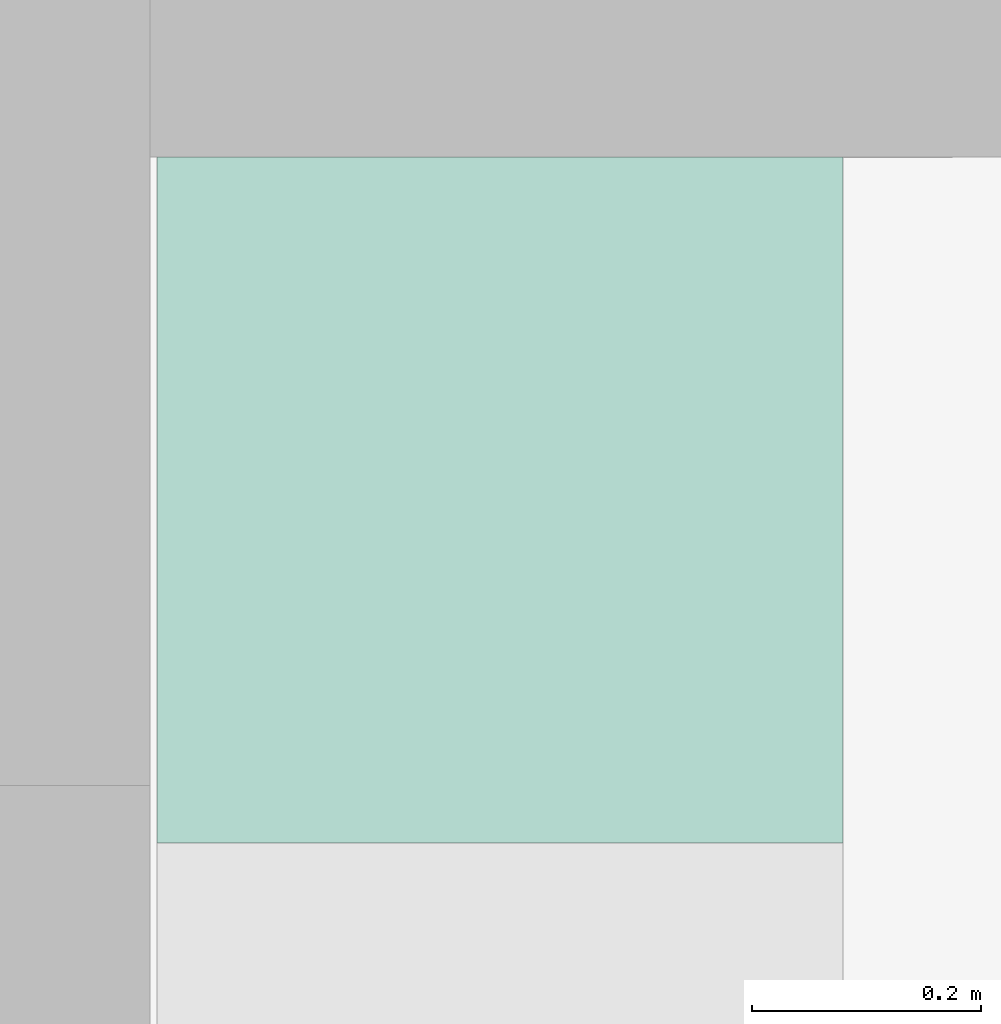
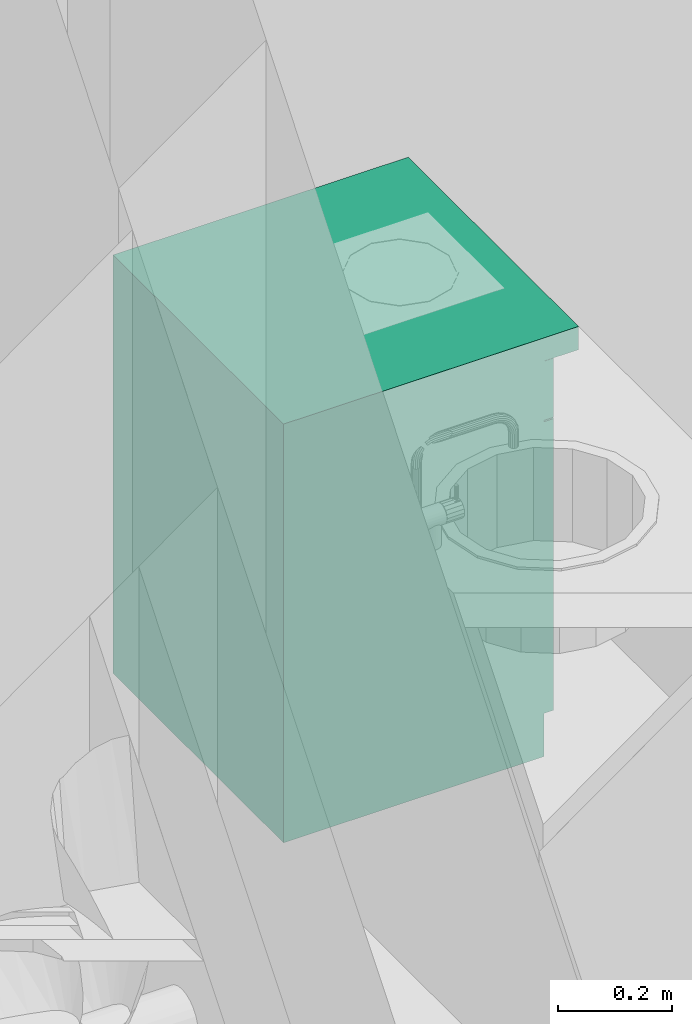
# One storey, part 46 of 172: 1 flow terminal.
"""IFC2X3 building model written with IfcOpenShell, lengths in millimetres."""

from ifc_helpers import new_model, entity, si_unit, converted_unit, money_unit, direction, frame, origin_with_axes, place, context, subcontext, project, spatial, faceted_brep, source, transform, mapped, material, material_list, type_object, element, save


model = new_model("IFC2X3")

# Units and contexts
model_context = context("Model", 3, precision=1e-05, world=origin_with_axes(), true_north=direction((0.0, 1.0)))
body_context = subcontext(model_context, "Body", "Model", "MODEL_VIEW")
ifc_project = project(units=[si_unit("LENGTHUNIT", "METRE", prefix="MILLI"), si_unit("AREAUNIT", "SQUARE_METRE"), si_unit("VOLUMEUNIT", "CUBIC_METRE"), converted_unit("PLANEANGLEUNIT", "DEGREE", entity("IfcPlaneAngleMeasure", 0.0174532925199), si_unit("PLANEANGLEUNIT", "RADIAN"), dimensions=[0, 0, 0, 0, 0, 0, 0]), si_unit("SOLIDANGLEUNIT", "STERADIAN"), money_unit("USD"), converted_unit("TIMEUNIT", "Year", entity("IfcTimeMeasure", 31556926.0), si_unit("TIMEUNIT", "SECOND"), dimensions=[0, 0, 0, 0, 0, 0, 0]), si_unit("MASSUNIT", "GRAM"), si_unit("THERMODYNAMICTEMPERATUREUNIT", "DEGREE_CELSIUS"), si_unit("LUMINOUSINTENSITYUNIT", "LUMEN")], contexts=[model_context])

# Site, building, storey
site_placement = place(None, origin_with_axes())
site = spatial("IfcSite", under=ifc_project, at=site_placement, Name="Site", CompositionType="ELEMENT")
building_placement = place(site_placement, origin_with_axes())
building = spatial("IfcBuilding", under=site, at=building_placement, Name="Building", CompositionType="ELEMENT")
storey_placement = place(building_placement, frame((0.0, 0.0, 3200.0), z_axis=(0.0, 0.0, 1.0), x_axis=(1.0, 0.0, 0.0)))
storey = spatial("IfcBuildingStorey", under=building, at=storey_placement, Name="3KORRUS", CompositionType="ELEMENT", Elevation=3200.0)

# Flow terminal
ifc_material = material(Name="Background")
ifc_material_list = material_list([ifc_material])
sanitary_terminal_type = type_object("IfcSanitaryTerminalType", Name="Cabinet Base Single Door 19", PredefinedType="SINK")
shared_shape = source(origin_with_axes(), body_context, "Body", "Brep", [
    faceted_brep([(20.0, 70.0, 710.0), (580.0, 70.0, 710.0), (580.0, 70.0, 730.0), (20.0, 70.0, 730.0), (20.0, 580.0, 710.0), (580.0, 580.0, 710.0), (580.0, 580.0, 730.0), (20.0, 580.0, 730.0)], [[[0, 1, 2, 3]], [[0, 4, 5, 1]], [[1, 5, 6, 2]], [[3, 2, 6, 7]], [[4, 0, 3, 7]], [[5, 4, 7, 6]]]),
    faceted_brep([(0.0, 70.0, 0.0), (600.0, 70.0, 0.0), (600.0, 70.0, 90.0), (0.0, 70.0, 90.0), (0.0, 600.0, 0.0), (600.0, 600.0, 0.0), (600.0, 600.0, 90.0), (0.0, 600.0, 90.0)], [[[0, 1, 2, 3]], [[0, 4, 5, 1]], [[1, 5, 6, 2]], [[3, 2, 6, 7]], [[4, 0, 3, 7]], [[5, 4, 7, 6]]]),
    faceted_brep([(0.0, 70.0, 830.0), (20.0, 70.0, 830.0), (20.0, 70.0, 850.0), (0.0, 70.0, 850.0), (0.0, 600.0, 830.0), (20.0, 600.0, 830.0), (580.0, 600.0, 830.0), (600.0, 600.0, 830.0), (600.0, 70.0, 830.0), (580.0, 70.0, 830.0), (580.0, 70.0, 850.0), (600.0, 70.0, 850.0), (600.0, 600.0, 850.0), (580.0, 600.0, 850.0), (20.0, 600.0, 850.0), (0.0, 600.0, 850.0)], [[[0, 1, 2, 3]], [[0, 4, 5, 6, 7, 8, 9, 1]], [[1, 9, 10, 2]], [[3, 2, 10, 11, 12, 13, 14, 15]], [[4, 0, 3, 15]], [[5, 4, 15, 14]], [[6, 5, 14, 13]], [[7, 6, 13, 12]], [[8, 7, 12, 11]], [[9, 8, 11, 10]]]),
    faceted_brep([(0.0, 70.0, 90.0), (20.0, 70.0, 90.0), (20.0, 70.0, 110.0), (0.0, 70.0, 110.0), (0.0, 600.0, 90.0), (20.0, 600.0, 90.0), (580.0, 600.0, 90.0), (600.0, 600.0, 90.0), (600.0, 70.0, 90.0), (580.0, 70.0, 90.0), (580.0, 70.0, 110.0), (600.0, 70.0, 110.0), (600.0, 600.0, 110.0), (580.0, 600.0, 110.0), (20.0, 600.0, 110.0), (0.0, 600.0, 110.0)], [[[0, 1, 2, 3]], [[0, 4, 5, 6, 7, 8, 9, 1]], [[1, 9, 10, 2]], [[3, 2, 10, 11, 12, 13, 14, 15]], [[4, 0, 3, 15]], [[5, 4, 15, 14]], [[6, 5, 14, 13]], [[7, 6, 13, 12]], [[8, 7, 12, 11]], [[9, 8, 11, 10]]]),
    faceted_brep([(0.0, 70.0, 110.0), (20.0, 70.0, 110.0), (20.0, 70.0, 830.0), (0.0, 70.0, 830.0), (0.0, 600.0, 110.0), (600.0, 600.0, 110.0), (600.0, 70.0, 110.0), (580.0, 70.0, 110.0), (580.0, 580.0, 110.0), (20.0, 580.0, 110.0), (20.0, 580.0, 830.0), (580.0, 580.0, 830.0), (580.0, 70.0, 830.0), (600.0, 70.0, 830.0), (600.0, 600.0, 830.0), (0.0, 600.0, 830.0)], [[[0, 1, 2, 3]], [[0, 4, 5, 6, 7, 8, 9, 1]], [[1, 9, 10, 2]], [[3, 2, 10, 11, 12, 13, 14, 15]], [[4, 0, 3, 15]], [[5, 4, 15, 14]], [[6, 5, 14, 13]], [[7, 6, 13, 12]], [[8, 7, 12, 11]], [[9, 8, 11, 10]]]),
    faceted_brep([(580.0, 70.0, 385.0), (580.0, 580.0, 385.0), (580.0, 580.0, 405.0), (580.0, 70.0, 405.0), (20.0, 70.0, 385.0), (20.0, 580.0, 385.0), (20.0, 580.0, 405.0), (20.0, 70.0, 405.0)], [[[0, 1, 2, 3]], [[0, 4, 5, 1]], [[1, 5, 6, 2]], [[3, 2, 6, 7]], [[4, 0, 3, 7]], [[5, 4, 7, 6]]]),
    faceted_brep([(0.0, 0.0, 850.0), (600.0, 0.0, 850.0), (600.0, 0.0, 900.0), (0.0, 0.0, 900.0), (0.0, 600.0, 850.0), (600.0, 600.0, 850.0), (600.0, 600.0, 900.0), (0.0, 600.0, 900.0)], [[[0, 1, 2, 3]], [[0, 4, 5, 1]], [[1, 5, 6, 2]], [[3, 2, 6, 7]], [[4, 0, 3, 7]], [[5, 4, 7, 6]]]),
    faceted_brep([(1.5, 70.0, 721.5), (598.5, 70.0, 721.5), (598.5, 50.0, 721.5), (1.5, 50.0, 721.5), (1.5, 70.0, 848.5), (598.5, 70.0, 848.5), (598.5, 50.0, 848.5), (1.5, 50.0, 848.5)], [[[0, 1, 2, 3]], [[0, 4, 5, 1]], [[1, 5, 6, 2]], [[3, 2, 6, 7]], [[4, 0, 3, 7]], [[5, 4, 7, 6]]]),
    faceted_brep([(295.408, 50.0, 773.913), (291.515, 50.0, 776.515), (288.913, 50.0, 780.408), (288.0, 50.0, 785.0), (288.913, 50.0, 789.592), (291.515, 50.0, 793.485), (295.408, 50.0, 796.087), (300.0, 50.0, 797.0), (304.592, 50.0, 796.087), (308.485, 50.0, 793.485), (311.087, 50.0, 789.592), (312.0, 50.0, 785.0), (311.087, 50.0, 780.408), (308.485, 50.0, 776.515), (304.592, 50.0, 773.913), (300.0, 50.0, 773.0), (295.408, 25.0, 773.913), (291.515, 25.0, 776.515), (288.913, 25.0, 780.408), (288.0, 25.0, 785.0), (288.913, 25.0, 789.592), (291.515, 25.0, 793.485), (295.408, 25.0, 796.087), (300.0, 25.0, 797.0), (304.592, 25.0, 796.087), (308.485, 25.0, 793.485), (311.087, 25.0, 789.592), (312.0, 25.0, 785.0), (311.087, 25.0, 780.408), (308.485, 25.0, 776.515), (304.592, 25.0, 773.913), (300.0, 25.0, 773.0)], [[[0, 1, 2, 3, 4, 5, 6, 7, 8, 9, 10, 11, 12, 13, 14, 15]], [[1, 0, 16, 17]], [[2, 1, 17, 18]], [[3, 2, 18, 19]], [[4, 3, 19, 20]], [[5, 4, 20, 21]], [[6, 5, 21, 22]], [[7, 6, 22, 23]], [[8, 7, 23, 24]], [[9, 8, 24, 25]], [[10, 9, 25, 26]], [[11, 10, 26, 27]], [[12, 11, 27, 28]], [[13, 12, 28, 29]], [[14, 13, 29, 30]], [[15, 14, 30, 31]], [[0, 15, 31, 16]], [[16, 31, 30, 29, 28, 27, 26, 25, 24, 23, 22, 21, 20, 19, 18, 17]]]),
    faceted_brep([(1.5, 70.0, 91.5), (598.5, 70.0, 91.5), (598.5, 50.0, 91.5), (1.5, 50.0, 91.5), (1.5, 70.0, 718.5), (598.5, 70.0, 718.5), (598.5, 50.0, 718.5), (1.5, 50.0, 718.5)], [[[0, 1, 2, 3]], [[0, 4, 5, 1]], [[1, 5, 6, 2]], [[3, 2, 6, 7]], [[4, 0, 3, 7]], [[5, 4, 7, 6]]]),
    faceted_brep([(559.587, 50.0, 636.908), (556.985, 50.0, 633.015), (553.092, 50.0, 630.413), (548.5, 50.0, 629.5), (543.908, 50.0, 630.413), (540.015, 50.0, 633.015), (537.413, 50.0, 636.908), (536.5, 50.0, 641.5), (537.413, 50.0, 646.092), (540.015, 50.0, 649.985), (543.908, 50.0, 652.587), (548.5, 50.0, 653.5), (553.092, 50.0, 652.587), (556.985, 50.0, 649.985), (559.587, 50.0, 646.092), (560.5, 50.0, 641.5), (559.587, 25.0, 636.908), (556.985, 25.0, 633.015), (553.092, 25.0, 630.413), (548.5, 25.0, 629.5), (543.908, 25.0, 630.413), (540.015, 25.0, 633.015), (537.413, 25.0, 636.908), (536.5, 25.0, 641.5), (537.413, 25.0, 646.092), (540.015, 25.0, 649.985), (543.908, 25.0, 652.587), (548.5, 25.0, 653.5), (553.092, 25.0, 652.587), (556.985, 25.0, 649.985), (559.587, 25.0, 646.092), (560.5, 25.0, 641.5)], [[[0, 1, 2, 3, 4, 5, 6, 7, 8, 9, 10, 11, 12, 13, 14, 15]], [[1, 0, 16, 17]], [[2, 1, 17, 18]], [[3, 2, 18, 19]], [[4, 3, 19, 20]], [[5, 4, 20, 21]], [[6, 5, 21, 22]], [[7, 6, 22, 23]], [[8, 7, 23, 24]], [[9, 8, 24, 25]], [[10, 9, 25, 26]], [[11, 10, 26, 27]], [[12, 11, 27, 28]], [[13, 12, 28, 29]], [[14, 13, 29, 30]], [[15, 14, 30, 31]], [[0, 15, 31, 16]], [[16, 31, 30, 29, 28, 27, 26, 25, 24, 23, 22, 21, 20, 19, 18, 17]]]),
])
flow_terminal_placement = place(storey_placement, frame((-47384.008308, -13789.2398994, 0.0), z_axis=(0.0, 0.0, 1.0), x_axis=(0.0, 1.0, 0.0)))
element("IfcFlowTerminal", 1, at=flow_terminal_placement, inside=storey, type_object=sanitary_terminal_type, material=ifc_material_list, Name="FU - 007", context=body_context, shape_type="MappedRepresentation", body=[
    mapped(shared_shape, transform((0.0, 0.0, 0.0))),
])

save(model, "model.ifc")
